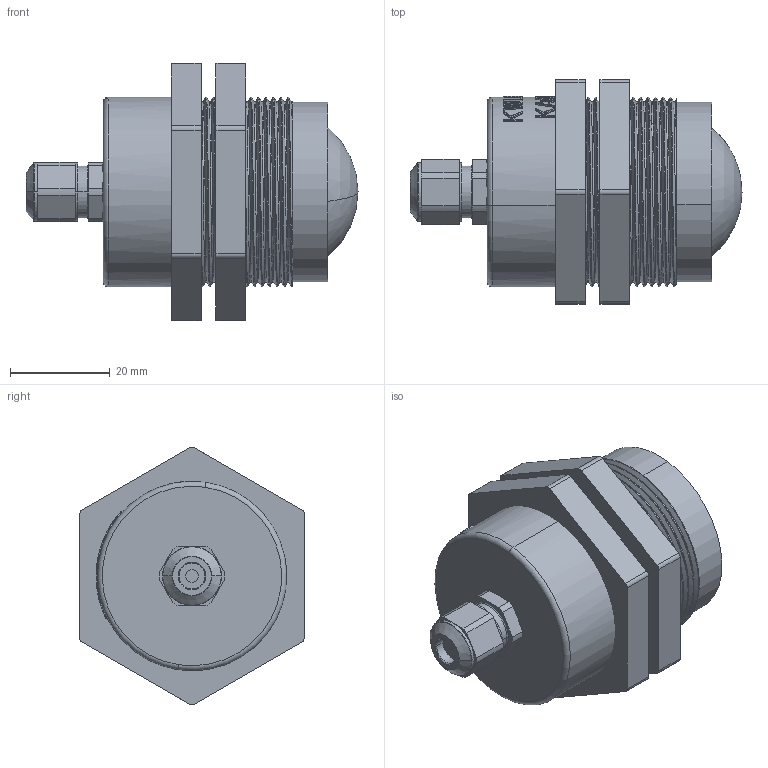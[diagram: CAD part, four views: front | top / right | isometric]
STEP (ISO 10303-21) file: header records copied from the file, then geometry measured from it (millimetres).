
FILE_DESCRIPTION((''),'2;1');
FILE_NAME('KWL80200_ASM','2025-12-25T10:48:54',('28740194'),(''),'CREO PARAMETRIC BY PTC INC, 2024063','CREO PARAMETRIC BY PTC INC, 2024063','');
FILE_SCHEMA(('CONFIG_CONTROL_DESIGN'));
Length unit declared in the file: millimetre
Products named in the file (4): 1572_08_035_2_5; KWL802; M36000; KWL80200_ASM
Assembly tree (4 placements, depth 2):
  KWL80200_ASM
    1572_08_035_2_5
    KWL802
    M36000  x2
Bounding box: 66.58 x 45.04 x 51.69 mm (x, y, z)
Volume: 10413.1 mm3; surface area: 17814.3 mm2
Topology: 3 solids, 9 shells, 518 faces, 1412 edges, 930 vertices
Faces by surface type: bspline 331, cylinder 112, plane 46, cone 15, torus 12, sphere 2
Entity records: 26596 total; most frequent: CARTESIAN_POINT 16550, ORIENTED_EDGE 2640, EDGE_CURVE 1334, DIRECTION 1077, VERTEX_POINT 883, B_SPLINE_CURVE_WITH_KNOTS 856, EDGE_LOOP 520, FACE_OUTER_BOUND 487
